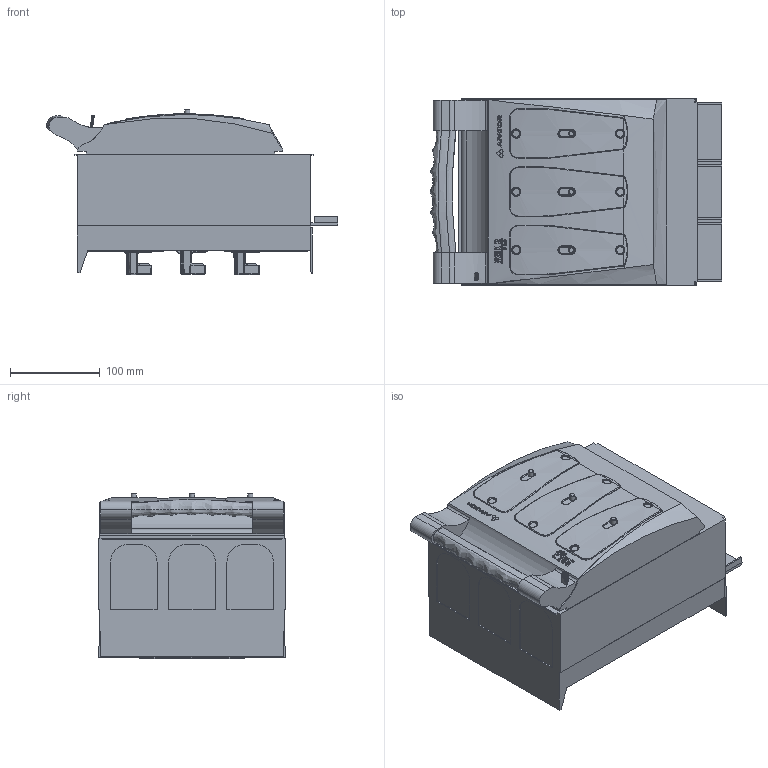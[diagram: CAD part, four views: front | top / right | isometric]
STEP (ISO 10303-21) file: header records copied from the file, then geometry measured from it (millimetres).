
FILE_DESCRIPTION(/* description */ (''),/* implementation_level */ '2;1');
FILE_NAME(/* name */ 'RBK 2 pro SD-V 60.stp',/* time_stamp */ '2020-09-04T11:39:03+02:00',/* author */ (''),/* organization */ (''),/* preprocessor_version */ 'ST-DEVELOPER v16',/* originating_system */ 'SIEMENS PLM Software NX 10.0',/* authorisation */ '');
FILE_SCHEMA (('AUTOMOTIVE_DESIGN { 1 0 10303 214 3 1 1 1 }'));
Products named in the file (1): 710_3A8450094m8n
Bounding box: 325.32 x 208 x 184.12 mm (x, y, z)
Volume: 7163549.2 mm3; surface area: 424059.5 mm2
Topology: 1 solids, 4 shells, 2175 faces, 5933 edges, 3749 vertices
Faces by surface type: plane 1298, cylinder 389, bspline 325, extrusion 95, sphere 43, torus 16, cone 9
Full cylindrical faces by diameter (mm): 6 x3
Entity records: 81084 total; most frequent: CARTESIAN_POINT 27768, ORIENTED_EDGE 11634, DIRECTION 10682, EDGE_CURVE 5817, AXIS2_PLACEMENT_3D 3829, VERTEX_POINT 3730, VECTOR 3024, LINE 2929
